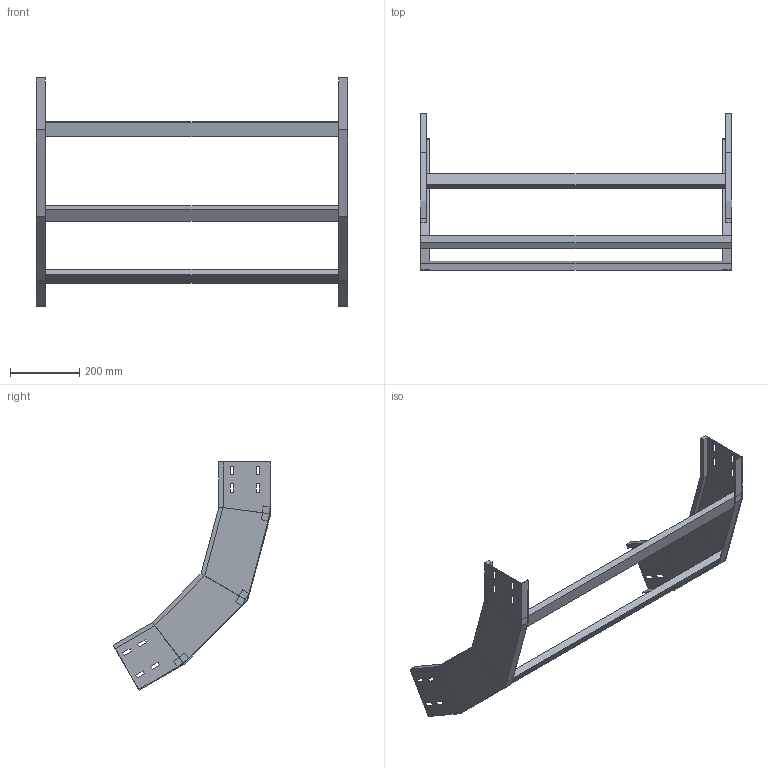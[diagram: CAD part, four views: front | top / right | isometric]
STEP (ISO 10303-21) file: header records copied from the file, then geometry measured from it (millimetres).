
FILE_DESCRIPTION (( 'STEP AP214' ), '1' );
FILE_NAME ('40J5F900.step', '2025-02-21T16:27:10', ( '' ), ( '' ), 'SwSTEP 2.0', 'SolidWorks 2023', '' );
FILE_SCHEMA (( 'AUTOMOTIVE_DESIGN' ));
Length unit declared in the file: millimetre
Products named in the file (3): TRAVERSINO_900; 40J5F900; LONGH.SALITA_60°_H150_R500
Assembly tree (5 placements, depth 2):
  40J5F900
    LONGH.SALITA_60°_H150_R500  x2
    TRAVERSINO_900  x3
Bounding box: 900 x 455.08 x 658.32 mm (x, y, z)
Volume: 2950120.4 mm3; surface area: 900399.3 mm2
Topology: 5 solids, 5 shells, 150 faces, 372 edges, 232 vertices
Faces by surface type: plane 150
Entity records: 2216 total; most frequent: CARTESIAN_POINT 372, ORIENTED_EDGE 360, DIRECTION 340, LINE 180, EDGE_CURVE 180, VECTOR 180, VERTEX_POINT 112, EDGE_LOOP 88
